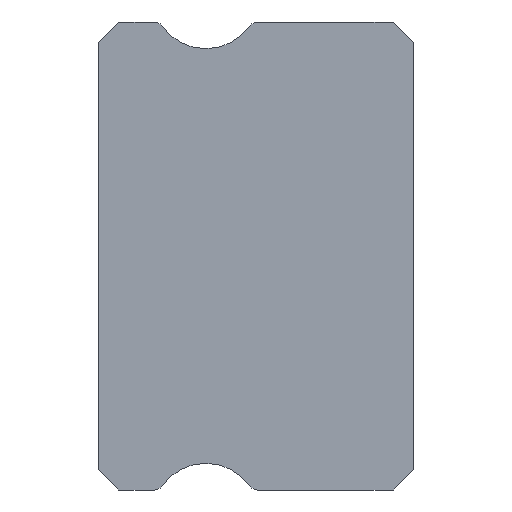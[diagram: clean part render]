
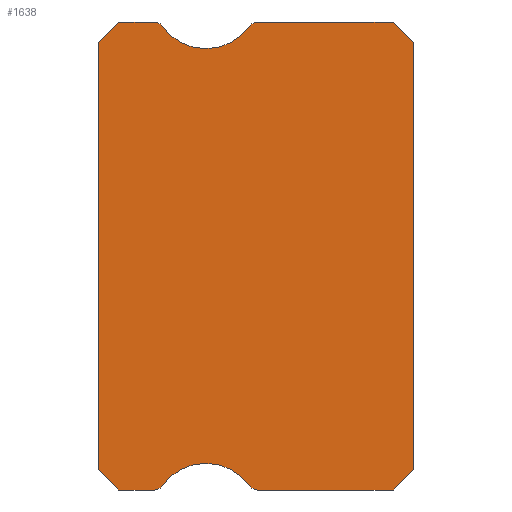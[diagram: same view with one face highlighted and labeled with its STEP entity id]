
A CAD part, left-side view. The second image highlights one B-rep face of the part: STEP entity #1638.
In plain terms, the highlighted planar face has unit normal (-1, 0, 0).
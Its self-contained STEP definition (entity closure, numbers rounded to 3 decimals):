
#20=CIRCLE('',#1754,0.15);
#22=CIRCLE('',#1757,0.8);
#24=CIRCLE('',#1760,0.15);
#59=CIRCLE('',#1801,0.15);
#61=CIRCLE('',#1804,0.8);
#63=CIRCLE('',#1807,0.15);
#382=ORIENTED_EDGE('',*,*,#596,.F.);
#383=ORIENTED_EDGE('',*,*,#708,.F.);
#384=ORIENTED_EDGE('',*,*,#672,.F.);
#385=ORIENTED_EDGE('',*,*,#669,.F.);
#386=ORIENTED_EDGE('',*,*,#666,.F.);
#387=ORIENTED_EDGE('',*,*,#663,.T.);
#388=ORIENTED_EDGE('',*,*,#660,.F.);
#389=ORIENTED_EDGE('',*,*,#657,.F.);
#390=ORIENTED_EDGE('',*,*,#654,.F.);
#391=ORIENTED_EDGE('',*,*,#651,.F.);
#392=ORIENTED_EDGE('',*,*,#615,.F.);
#393=ORIENTED_EDGE('',*,*,#612,.F.);
#394=ORIENTED_EDGE('',*,*,#609,.F.);
#395=ORIENTED_EDGE('',*,*,#606,.T.);
#396=ORIENTED_EDGE('',*,*,#603,.F.);
#397=ORIENTED_EDGE('',*,*,#600,.F.);
#596=EDGE_CURVE('',#776,#777,#940,.T.);
#600=EDGE_CURVE('',#777,#780,#944,.T.);
#603=EDGE_CURVE('',#780,#782,#20,.T.);
#606=EDGE_CURVE('',#784,#782,#22,.T.);
#609=EDGE_CURVE('',#784,#786,#24,.T.);
#612=EDGE_CURVE('',#786,#788,#950,.T.);
#615=EDGE_CURVE('',#788,#790,#953,.T.);
#651=EDGE_CURVE('',#790,#825,#956,.T.);
#654=EDGE_CURVE('',#825,#827,#959,.T.);
#657=EDGE_CURVE('',#827,#829,#962,.T.);
#660=EDGE_CURVE('',#829,#831,#59,.T.);
#663=EDGE_CURVE('',#833,#831,#61,.T.);
#666=EDGE_CURVE('',#833,#835,#63,.T.);
#669=EDGE_CURVE('',#835,#837,#968,.T.);
#672=EDGE_CURVE('',#837,#839,#971,.T.);
#708=EDGE_CURVE('',#839,#776,#974,.T.);
#776=VERTEX_POINT('',#2575);
#777=VERTEX_POINT('',#2576);
#780=VERTEX_POINT('',#2584);
#782=VERTEX_POINT('',#2590);
#784=VERTEX_POINT('',#2596);
#786=VERTEX_POINT('',#2602);
#788=VERTEX_POINT('',#2608);
#790=VERTEX_POINT('',#2614);
#825=VERTEX_POINT('',#2686);
#827=VERTEX_POINT('',#2692);
#829=VERTEX_POINT('',#2698);
#831=VERTEX_POINT('',#2704);
#833=VERTEX_POINT('',#2710);
#835=VERTEX_POINT('',#2716);
#837=VERTEX_POINT('',#2722);
#839=VERTEX_POINT('',#2728);
#940=LINE('',#2574,#976);
#944=LINE('',#2583,#980);
#950=LINE('',#2607,#986);
#953=LINE('',#2613,#989);
#956=LINE('',#2685,#992);
#959=LINE('',#2691,#995);
#962=LINE('',#2697,#998);
#968=LINE('',#2721,#1004);
#971=LINE('',#2727,#1007);
#974=LINE('',#2799,#1010);
#976=VECTOR('',#2016,1000.);
#980=VECTOR('',#2022,1000.);
#986=VECTOR('',#2048,1000.);
#989=VECTOR('',#2053,1000.);
#992=VECTOR('',#2124,1000.);
#995=VECTOR('',#2129,1000.);
#998=VECTOR('',#2134,1000.);
#1004=VECTOR('',#2160,1000.);
#1007=VECTOR('',#2165,1000.);
#1010=VECTOR('',#2236,1000.);
#1095=EDGE_LOOP('',(#382,#383,#384,#385,#386,#387,#388,#389,#390,#391,#392,
#393,#394,#395,#396,#397));
#1377=FACE_BOUND('',#1095,.T.);
#1587=PLANE('',#1846);
#1638=ADVANCED_FACE('',(#1377),#1587,.F.);
#1754=AXIS2_PLACEMENT_3D('',#2589,#2027,#2028);
#1757=AXIS2_PLACEMENT_3D('',#2595,#2034,#2035);
#1760=AXIS2_PLACEMENT_3D('',#2601,#2041,#2042);
#1801=AXIS2_PLACEMENT_3D('',#2703,#2139,#2140);
#1804=AXIS2_PLACEMENT_3D('',#2709,#2146,#2147);
#1807=AXIS2_PLACEMENT_3D('',#2715,#2153,#2154);
#1846=AXIS2_PLACEMENT_3D('',#2802,#2240,#2241);
#2016=DIRECTION('',(0.,-0.707,0.707));
#2022=DIRECTION('',(0.,-1.,0.));
#2027=DIRECTION('',(1.,0.,0.));
#2028=DIRECTION('',(0.,0.,-1.));
#2034=DIRECTION('',(1.,0.,0.));
#2035=DIRECTION('',(0.,0.,-1.));
#2041=DIRECTION('',(1.,0.,0.));
#2042=DIRECTION('',(0.,0.,-1.));
#2048=DIRECTION('',(0.,-1.,0.));
#2053=DIRECTION('',(0.,-0.707,-0.707));
#2124=DIRECTION('',(0.,0.,-1.));
#2129=DIRECTION('',(0.,0.707,-0.707));
#2134=DIRECTION('',(0.,1.,0.));
#2139=DIRECTION('',(1.,0.,0.));
#2140=DIRECTION('',(0.,0.,-1.));
#2146=DIRECTION('',(1.,0.,0.));
#2147=DIRECTION('',(0.,0.,-1.));
#2153=DIRECTION('',(1.,0.,0.));
#2154=DIRECTION('',(0.,0.,-1.));
#2160=DIRECTION('',(0.,1.,0.));
#2165=DIRECTION('',(0.,0.707,0.707));
#2236=DIRECTION('',(0.,0.,1.));
#2240=DIRECTION('',(1.,0.,0.));
#2241=DIRECTION('',(0.,0.,-1.));
#2574=CARTESIAN_POINT('',(-5.,4.7,3.2));
#2575=CARTESIAN_POINT('',(-5.,4.7,3.2));
#2576=CARTESIAN_POINT('',(-5.,4.4,3.5));
#2583=CARTESIAN_POINT('',(-5.,4.4,3.5));
#2584=CARTESIAN_POINT('',(-5.,3.875,3.5));
#2589=CARTESIAN_POINT('',(-5.,3.875,3.35));
#2590=CARTESIAN_POINT('',(-5.,3.752,3.437));
#2595=CARTESIAN_POINT('',(-5.,3.1,3.9));
#2596=CARTESIAN_POINT('',(-5.,2.448,3.437));
#2601=CARTESIAN_POINT('',(-5.,2.325,3.35));
#2602=CARTESIAN_POINT('',(-5.,2.325,3.5));
#2607=CARTESIAN_POINT('',(-5.,2.325,3.5));
#2608=CARTESIAN_POINT('',(-5.,0.3,3.5));
#2613=CARTESIAN_POINT('',(-5.,0.3,3.5));
#2614=CARTESIAN_POINT('',(-5.,0.,3.2));
#2685=CARTESIAN_POINT('',(-5.,0.,3.2));
#2686=CARTESIAN_POINT('',(-5.,0.,-3.2));
#2691=CARTESIAN_POINT('',(-5.,0.,-3.2));
#2692=CARTESIAN_POINT('',(-5.,0.3,-3.5));
#2697=CARTESIAN_POINT('',(-5.,0.3,-3.5));
#2698=CARTESIAN_POINT('',(-5.,2.325,-3.5));
#2703=CARTESIAN_POINT('',(-5.,2.325,-3.35));
#2704=CARTESIAN_POINT('',(-5.,2.448,-3.437));
#2709=CARTESIAN_POINT('',(-5.,3.1,-3.9));
#2710=CARTESIAN_POINT('',(-5.,3.752,-3.437));
#2715=CARTESIAN_POINT('',(-5.,3.875,-3.35));
#2716=CARTESIAN_POINT('',(-5.,3.875,-3.5));
#2721=CARTESIAN_POINT('',(-5.,3.875,-3.5));
#2722=CARTESIAN_POINT('',(-5.,4.4,-3.5));
#2727=CARTESIAN_POINT('',(-5.,4.4,-3.5));
#2728=CARTESIAN_POINT('',(-5.,4.7,-3.2));
#2799=CARTESIAN_POINT('',(-5.,4.7,-3.2));
#2802=CARTESIAN_POINT('',(-5.,3.875,3.35));
